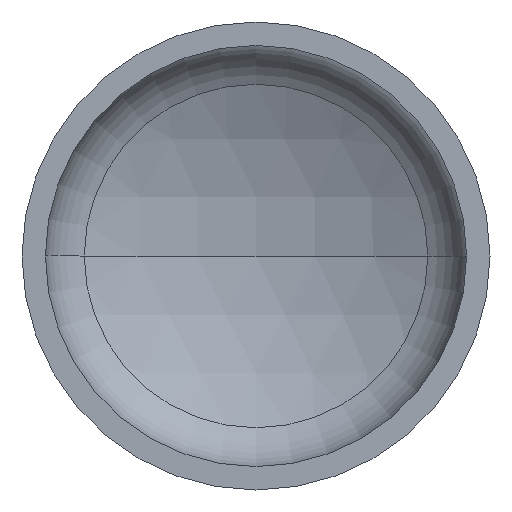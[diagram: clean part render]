
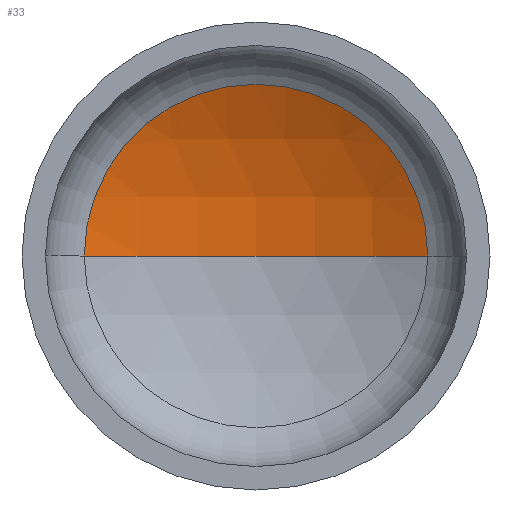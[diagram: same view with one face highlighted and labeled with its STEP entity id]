
A CAD part, front view. The second image highlights one B-rep face of the part: STEP entity #33.
In plain terms, the highlighted spherical face has radius 480 mm.
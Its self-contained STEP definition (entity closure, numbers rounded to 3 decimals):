
#2 = CARTESIAN_POINT ( 'NONE',  ( 0., -254.761, 0. ) ) ;
#3 = DIRECTION ( 'NONE',  ( 0., -1., 0. ) ) ;
#5 = DIRECTION ( 'NONE',  ( 0., 0., -1. ) ) ;
#7 = CARTESIAN_POINT ( 'NONE',  ( 0., -254.761, 0. ) ) ;
#13 = EDGE_LOOP ( 'NONE', ( #224, #218, #143 ) ) ;
#27 = VERTEX_POINT ( 'NONE', #287 ) ;
#33 = ADVANCED_FACE ( 'NONE', ( #231 ), #216, .F. ) ;
#38 = VERTEX_POINT ( 'NONE', #249 ) ;
#44 = DIRECTION ( 'NONE',  ( 0., 0., 1. ) ) ;
#53 = CIRCLE ( 'NONE', #63, 480. ) ;
#55 = VERTEX_POINT ( 'NONE', #284 ) ;
#63 = AXIS2_PLACEMENT_3D ( 'NONE', #2, #44, #298 ) ;
#64 = AXIS2_PLACEMENT_3D ( 'NONE', #7, #5, #92 ) ;
#68 = AXIS2_PLACEMENT_3D ( 'NONE', #371, #3, #266 ) ;
#92 = DIRECTION ( 'NONE',  ( -1., 0., 0. ) ) ;
#136 = AXIS2_PLACEMENT_3D ( 'NONE', #286, #370, #289 ) ;
#143 = ORIENTED_EDGE ( 'NONE', *, *, #184, .T. ) ;
#174 = CIRCLE ( 'NONE', #64, 480. ) ;
#184 = EDGE_CURVE ( 'NONE', #38, #55, #262, .T. ) ;
#188 = EDGE_CURVE ( 'NONE', #27, #38, #174, .T. ) ;
#191 = EDGE_CURVE ( 'NONE', #27, #55, #53, .T. ) ;
#216 = SPHERICAL_SURFACE ( 'NONE', #136, 480. ) ;
#218 = ORIENTED_EDGE ( 'NONE', *, *, #188, .T. ) ;
#224 = ORIENTED_EDGE ( 'NONE', *, *, #191, .F. ) ;
#231 = FACE_OUTER_BOUND ( 'NONE', #13, .T. ) ;
#249 = CARTESIAN_POINT ( 'NONE',  ( 220.206, 171.747, 0. ) ) ;
#262 = CIRCLE ( 'NONE', #68, 220.206 ) ;
#266 = DIRECTION ( 'NONE',  ( 1., 0., 0. ) ) ;
#284 = CARTESIAN_POINT ( 'NONE',  ( -220.206, 171.747, 0. ) ) ;
#286 = CARTESIAN_POINT ( 'NONE',  ( 0., -254.761, 0. ) ) ;
#287 = CARTESIAN_POINT ( 'NONE',  ( 0., 225.239, 0. ) ) ;
#289 = DIRECTION ( 'NONE',  ( -1., 0., 0. ) ) ;
#298 = DIRECTION ( 'NONE',  ( 1., 0., 0. ) ) ;
#370 = DIRECTION ( 'NONE',  ( 0., 0., -1. ) ) ;
#371 = CARTESIAN_POINT ( 'NONE',  ( 0., 171.747, 0. ) ) ;
